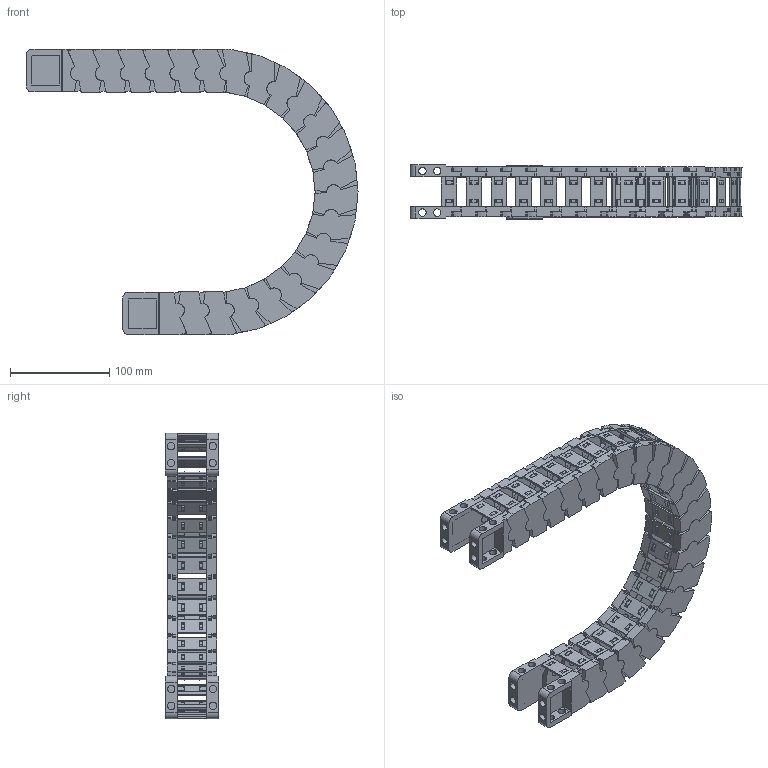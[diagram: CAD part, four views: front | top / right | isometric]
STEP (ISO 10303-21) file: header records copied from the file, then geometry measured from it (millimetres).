
FILE_DESCRIPTION((''),'2;1');
FILE_NAME('JY-35X30-R125_ASM','2023-02-08T15:33:08',('admin'),(''),'CREO PARAMETRIC BY PTC INC, 2021164','CREO PARAMETRIC BY PTC INC, 2021164','');
FILE_SCHEMA(('CONFIG_CONTROL_DESIGN','GEOMETRIC_VALIDATION_PROPERTIES_MIM'));
Length unit declared in the file: millimetre
Products named in the file (11): 35XL-L; 25-35XL-YP; 35XL-R; ASM0001_ASM; 35-LTT-A-L; 35-LTT-A-R; 35XL-LTT-A_ASM; 35-LTT-B-L; 35-LTT-B-R; 35XL-LTT-B_ASM; JY-35X30-R125_ASM
Assembly tree (36 placements, depth 3):
  JY-35X30-R125_ASM
    ASM0001_ASM  x22
      35XL-L
      25-35XL-YP
      35XL-R
    35XL-LTT-A_ASM
      35-LTT-A-L
      25-35XL-YP  x2
      35-LTT-A-R
    35XL-LTT-B_ASM
      35-LTT-B-L
      25-35XL-YP  x2
      35-LTT-B-R
Bounding box: 334.89 x 54.1 x 288.09 mm (x, y, z)
Volume: 566004.6 mm3; surface area: 340576.2 mm2
Topology: 96 solids, 96 shells, 4984 faces, 14582 edges, 9748 vertices
Faces by surface type: plane 3792, cylinder 1188, bspline 4
Entity records: 20898 total; most frequent: CARTESIAN_POINT 3249, ORIENTED_EDGE 2876, DIRECTION 2870, EDGE_CURVE 1438, VECTOR 1056, LINE 1056, VERTEX_POINT 964, AXIS2_PLACEMENT_3D 907
